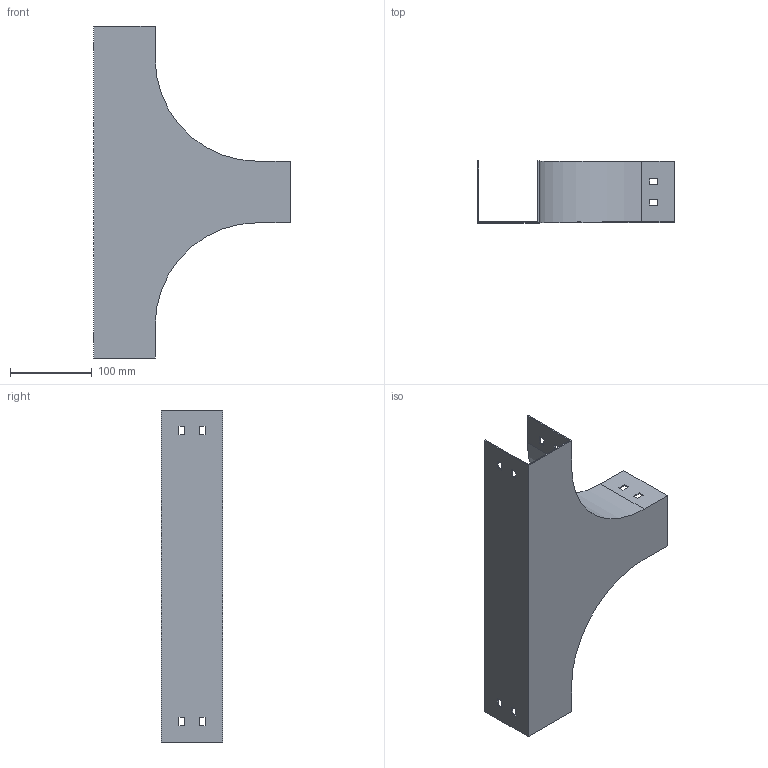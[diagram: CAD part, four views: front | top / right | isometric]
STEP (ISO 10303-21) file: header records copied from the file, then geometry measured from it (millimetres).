
FILE_DESCRIPTION (( 'STEP AP214' ), '1' );
FILE_NAME ('PT_077.step', '2025-07-16T09:23:05', ( '' ), ( '' ), 'SwSTEP 2.0', 'SolidWorks 2023', '' );
FILE_SCHEMA (( 'AUTOMOTIVE_DESIGN' ));
Length unit declared in the file: millimetre
Products named in the file (1): PT_077
Bounding box: 240 x 75 x 405 mm (x, y, z)
Volume: 178770.6 mm3; surface area: 241408.3 mm2
Topology: 1 solids, 1 shells, 70 faces, 204 edges, 136 vertices
Faces by surface type: plane 66, cylinder 4
Entity records: 2347 total; most frequent: CARTESIAN_POINT 411, ORIENTED_EDGE 408, DIRECTION 354, EDGE_CURVE 204, VECTOR 196, LINE 196, VERTEX_POINT 136, EDGE_LOOP 94
